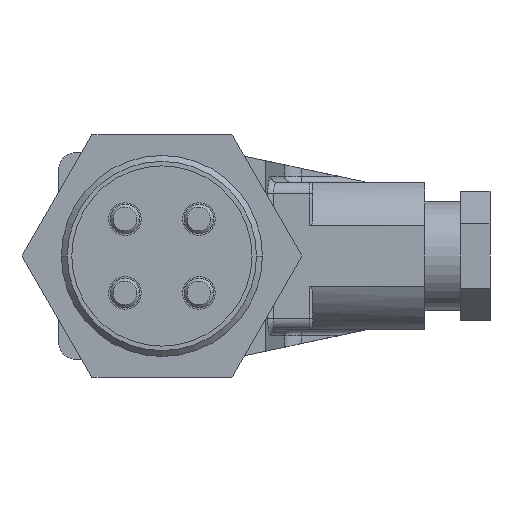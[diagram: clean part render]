
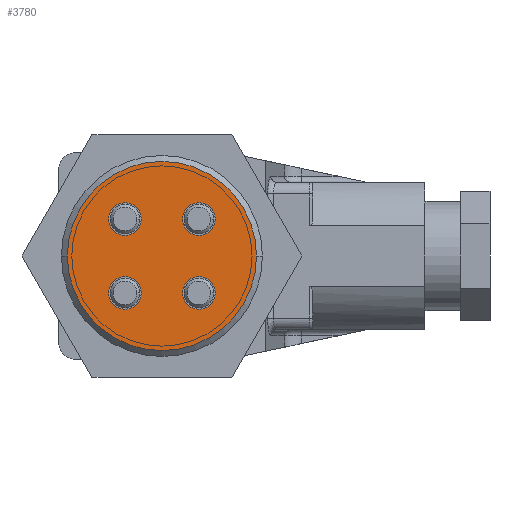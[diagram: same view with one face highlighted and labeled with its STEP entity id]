
A CAD part, front view. The second image highlights one B-rep face of the part: STEP entity #3780.
In plain terms, the highlighted planar face has unit normal (0, -1, 0).
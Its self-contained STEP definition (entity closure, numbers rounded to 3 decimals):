
#1146=CARTESIAN_POINT('',(0.,0.,0.));
#1147=DIRECTION('',(0.,-1.,0.));
#1148=DIRECTION('',(-1.,0.,0.));
#1149=AXIS2_PLACEMENT_3D('',#1146,#1147,#1148);
#1151=CARTESIAN_POINT('',(0.,0.,0.));
#1152=DIRECTION('',(0.,-1.,0.));
#1153=DIRECTION('',(1.,0.,0.));
#1154=AXIS2_PLACEMENT_3D('',#1151,#1152,#1153);
#1156=CARTESIAN_POINT('',(6.25,0.,-6.25));
#1157=DIRECTION('',(0.,-1.,0.));
#1158=DIRECTION('',(-1.,0.,0.));
#1159=AXIS2_PLACEMENT_3D('',#1156,#1157,#1158);
#1161=CARTESIAN_POINT('',(6.25,0.,-6.25));
#1162=DIRECTION('',(0.,-1.,0.));
#1163=DIRECTION('',(1.,0.,0.));
#1164=AXIS2_PLACEMENT_3D('',#1161,#1162,#1163);
#1166=CARTESIAN_POINT('',(-6.25,0.,-6.25));
#1167=DIRECTION('',(0.,-1.,0.));
#1168=DIRECTION('',(-1.,0.,0.));
#1169=AXIS2_PLACEMENT_3D('',#1166,#1167,#1168);
#1171=CARTESIAN_POINT('',(-6.25,0.,-6.25));
#1172=DIRECTION('',(0.,-1.,0.));
#1173=DIRECTION('',(1.,0.,0.));
#1174=AXIS2_PLACEMENT_3D('',#1171,#1172,#1173);
#1176=CARTESIAN_POINT('',(6.25,0.,6.25));
#1177=DIRECTION('',(0.,-1.,0.));
#1178=DIRECTION('',(-1.,0.,0.));
#1179=AXIS2_PLACEMENT_3D('',#1176,#1177,#1178);
#1181=CARTESIAN_POINT('',(6.25,0.,6.25));
#1182=DIRECTION('',(0.,-1.,0.));
#1183=DIRECTION('',(1.,0.,0.));
#1184=AXIS2_PLACEMENT_3D('',#1181,#1182,#1183);
#1186=CARTESIAN_POINT('',(-6.25,0.,6.25));
#1187=DIRECTION('',(0.,-1.,0.));
#1188=DIRECTION('',(-1.,0.,0.));
#1189=AXIS2_PLACEMENT_3D('',#1186,#1187,#1188);
#1191=CARTESIAN_POINT('',(-6.25,0.,6.25));
#1192=DIRECTION('',(0.,-1.,0.));
#1193=DIRECTION('',(1.,0.,0.));
#1194=AXIS2_PLACEMENT_3D('',#1191,#1192,#1193);
#1777=CARTESIAN_POINT('',(-16.,0.,0.));
#1778=CARTESIAN_POINT('',(16.,0.,0.));
#1779=VERTEX_POINT('',#1777);
#1780=VERTEX_POINT('',#1778);
#2138=CARTESIAN_POINT('',(3.5,0.,-6.25));
#2139=CARTESIAN_POINT('',(9.,0.,-6.25));
#2140=VERTEX_POINT('',#2138);
#2141=VERTEX_POINT('',#2139);
#2142=CARTESIAN_POINT('',(-9.,0.,-6.25));
#2143=CARTESIAN_POINT('',(-3.5,0.,-6.25));
#2144=VERTEX_POINT('',#2142);
#2145=VERTEX_POINT('',#2143);
#2146=CARTESIAN_POINT('',(3.5,0.,6.25));
#2147=CARTESIAN_POINT('',(9.,0.,6.25));
#2148=VERTEX_POINT('',#2146);
#2149=VERTEX_POINT('',#2147);
#2150=CARTESIAN_POINT('',(-9.,0.,6.25));
#2151=CARTESIAN_POINT('',(-3.5,0.,6.25));
#2152=VERTEX_POINT('',#2150);
#2153=VERTEX_POINT('',#2151);
#3746=CARTESIAN_POINT('',(0.,0.,0.));
#3747=DIRECTION('',(0.,1.,0.));
#3748=DIRECTION('',(1.,0.,0.));
#3749=AXIS2_PLACEMENT_3D('',#3746,#3747,#3748);
#3750=PLANE('',#3749);
#3752=ORIENTED_EDGE('',*,*,#3751,.F.);
#3753=ORIENTED_EDGE('',*,*,#3736,.F.);
#3754=EDGE_LOOP('',(#3752,#3753));
#3755=FACE_OUTER_BOUND('',#3754,.F.);
#3757=ORIENTED_EDGE('',*,*,#3756,.T.);
#3759=ORIENTED_EDGE('',*,*,#3758,.T.);
#3760=EDGE_LOOP('',(#3757,#3759));
#3761=FACE_BOUND('',#3760,.F.);
#3763=ORIENTED_EDGE('',*,*,#3762,.T.);
#3765=ORIENTED_EDGE('',*,*,#3764,.T.);
#3766=EDGE_LOOP('',(#3763,#3765));
#3767=FACE_BOUND('',#3766,.F.);
#3769=ORIENTED_EDGE('',*,*,#3768,.T.);
#3771=ORIENTED_EDGE('',*,*,#3770,.T.);
#3772=EDGE_LOOP('',(#3769,#3771));
#3773=FACE_BOUND('',#3772,.F.);
#3775=ORIENTED_EDGE('',*,*,#3774,.T.);
#3777=ORIENTED_EDGE('',*,*,#3776,.T.);
#3778=EDGE_LOOP('',(#3775,#3777));
#3779=FACE_BOUND('',#3778,.F.);
#1150=CIRCLE('',#1149,16.);
#1155=CIRCLE('',#1154,16.);
#1160=CIRCLE('',#1159,2.75);
#1165=CIRCLE('',#1164,2.75);
#1170=CIRCLE('',#1169,2.75);
#1175=CIRCLE('',#1174,2.75);
#1180=CIRCLE('',#1179,2.75);
#1185=CIRCLE('',#1184,2.75);
#1190=CIRCLE('',#1189,2.75);
#1195=CIRCLE('',#1194,2.75);
#3736=EDGE_CURVE('',#1780,#1779,#1155,.T.);
#3751=EDGE_CURVE('',#1779,#1780,#1150,.T.);
#3756=EDGE_CURVE('',#2140,#2141,#1160,.T.);
#3758=EDGE_CURVE('',#2141,#2140,#1165,.T.);
#3762=EDGE_CURVE('',#2144,#2145,#1170,.T.);
#3764=EDGE_CURVE('',#2145,#2144,#1175,.T.);
#3768=EDGE_CURVE('',#2148,#2149,#1180,.T.);
#3770=EDGE_CURVE('',#2149,#2148,#1185,.T.);
#3774=EDGE_CURVE('',#2152,#2153,#1190,.T.);
#3776=EDGE_CURVE('',#2153,#2152,#1195,.T.);
#3780=ADVANCED_FACE('',(#3755,#3761,#3767,#3773,#3779),#3750,.F.);
